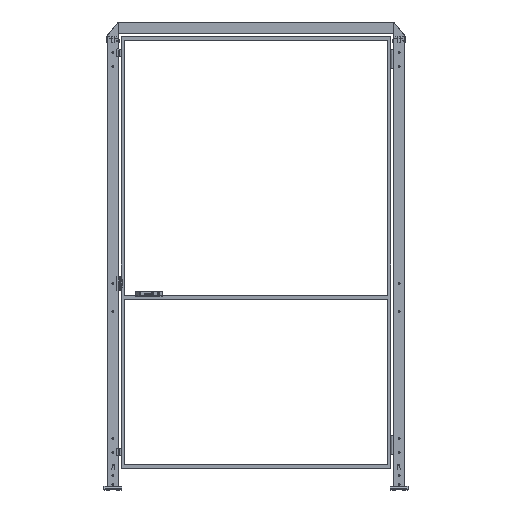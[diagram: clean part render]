
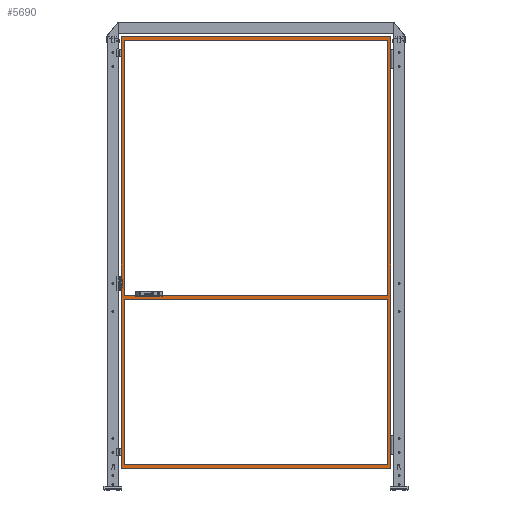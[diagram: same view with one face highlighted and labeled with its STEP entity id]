
A CAD part, top view. The second image highlights one B-rep face of the part: STEP entity #5690.
In plain terms, the highlighted planar face has unit normal (0, 0, 1).
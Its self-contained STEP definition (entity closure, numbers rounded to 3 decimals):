
#5690=ADVANCED_FACE('',(#11648,#11649,#11650),#11651,.F.);
#11648=FACE_BOUND('',#19171,.T.);
#11649=FACE_OUTER_BOUND('',#19172,.T.);
#11650=FACE_BOUND('',#19173,.T.);
#11651=PLANE('',#19174);
#19171=EDGE_LOOP('',(#35965,#35966,#35967,#35968));
#19172=EDGE_LOOP('',(#35969,#35970,#35971,#35972));
#19173=EDGE_LOOP('',(#35973,#35974,#35975,#35976));
#19174=AXIS2_PLACEMENT_3D('',#35977,#35978,#35979);
#35965=ORIENTED_EDGE('',*,*,#42847,.F.);
#35966=ORIENTED_EDGE('',*,*,#42853,.T.);
#35967=ORIENTED_EDGE('',*,*,#42875,.T.);
#35968=ORIENTED_EDGE('',*,*,#42880,.F.);
#35969=ORIENTED_EDGE('',*,*,#42891,.F.);
#35970=ORIENTED_EDGE('',*,*,#42885,.F.);
#35971=ORIENTED_EDGE('',*,*,#42855,.F.);
#35972=ORIENTED_EDGE('',*,*,#42889,.F.);
#35973=ORIENTED_EDGE('',*,*,#42877,.F.);
#35974=ORIENTED_EDGE('',*,*,#42872,.F.);
#35975=ORIENTED_EDGE('',*,*,#42883,.T.);
#35976=ORIENTED_EDGE('',*,*,#42892,.T.);
#35977=CARTESIAN_POINT('',(765.0,130.0,10.0));
#35978=DIRECTION('',(0.,0.0,-1.0));
#35979=DIRECTION('',(-1.0,0.0,0.));
#42847=EDGE_CURVE('',#52941,#52944,#52945,.T.);
#42853=EDGE_CURVE('',#52941,#52952,#52954,.T.);
#42855=EDGE_CURVE('',#52956,#52957,#52958,.T.);
#42872=EDGE_CURVE('',#52984,#52982,#52986,.T.);
#42875=EDGE_CURVE('',#52952,#52988,#52990,.T.);
#42877=EDGE_CURVE('',#52982,#52992,#52993,.T.);
#42880=EDGE_CURVE('',#52944,#52988,#52996,.T.);
#42883=EDGE_CURVE('',#52984,#52998,#53000,.T.);
#42885=EDGE_CURVE('',#52957,#53002,#53003,.T.);
#42889=EDGE_CURVE('',#53006,#52956,#53008,.T.);
#42891=EDGE_CURVE('',#53002,#53006,#53010,.T.);
#42892=EDGE_CURVE('',#52998,#52992,#53011,.T.);
#52941=VERTEX_POINT('',#68243);
#52944=VERTEX_POINT('',#68247);
#52945=LINE('',#68248,#68249);
#52952=VERTEX_POINT('',#68259);
#52954=LINE('',#68262,#68263);
#52956=VERTEX_POINT('',#68265);
#52957=VERTEX_POINT('',#68266);
#52958=LINE('',#68267,#68268);
#52982=VERTEX_POINT('',#68304);
#52984=VERTEX_POINT('',#68307);
#52986=LINE('',#68310,#68311);
#52988=VERTEX_POINT('',#68313);
#52990=LINE('',#68316,#68317);
#52992=VERTEX_POINT('',#68319);
#52993=LINE('',#68320,#68321);
#52996=LINE('',#68325,#68326);
#52998=VERTEX_POINT('',#68328);
#53000=LINE('',#68331,#68332);
#53002=VERTEX_POINT('',#68334);
#53003=LINE('',#68335,#68336);
#53006=VERTEX_POINT('',#68340);
#53008=LINE('',#68343,#68344);
#53010=LINE('',#68346,#68347);
#53011=LINE('',#68348,#68349);
#68243=CARTESIAN_POINT('',(1495.0,2500.0,10.));
#68247=CARTESIAN_POINT('',(35.,2500.0,10.0));
#68248=CARTESIAN_POINT('',(765.0,2500.0,10.0));
#68249=VECTOR('',#75637,1.0);
#68259=CARTESIAN_POINT('',(1495.0,1080.0,10.));
#68262=CARTESIAN_POINT('',(1495.0,1320.0,10.));
#68263=VECTOR('',#75642,1.0);
#68265=CARTESIAN_POINT('',(15.0,120.0,10.0));
#68266=CARTESIAN_POINT('',(15.,2520.0,10.0));
#68267=CARTESIAN_POINT('',(15.0,130.0,10.0));
#68268=VECTOR('',#75643,1.0);
#68304=CARTESIAN_POINT('',(35.,1060.0,10.0));
#68307=CARTESIAN_POINT('',(1495.0,1060.0,10.));
#68310=CARTESIAN_POINT('',(765.0,1060.0,10.0));
#68311=VECTOR('',#75658,1.0);
#68313=CARTESIAN_POINT('',(35.,1080.0,10.0));
#68316=CARTESIAN_POINT('',(765.0,1080.0,10.0));
#68317=VECTOR('',#75660,1.0);
#68319=CARTESIAN_POINT('',(35.0,140.0,10.0));
#68320=CARTESIAN_POINT('',(35.,1320.0,10.0));
#68321=VECTOR('',#75661,1.0);
#68325=CARTESIAN_POINT('',(35.,1320.0,10.0));
#68326=VECTOR('',#75663,1.0);
#68328=CARTESIAN_POINT('',(1495.0,140.0,10.));
#68331=CARTESIAN_POINT('',(1495.0,1320.0,10.));
#68332=VECTOR('',#75665,1.0);
#68334=CARTESIAN_POINT('',(1515.0,2520.0,10.));
#68335=CARTESIAN_POINT('',(25.,2520.0,10.0));
#68336=VECTOR('',#75666,1.0);
#68340=CARTESIAN_POINT('',(1515.0,120.0,10.));
#68343=CARTESIAN_POINT('',(765.0,120.0,10.0));
#68344=VECTOR('',#75669,1.0);
#68346=CARTESIAN_POINT('',(1515.0,1320.0,10.));
#68347=VECTOR('',#75670,1.0);
#68348=CARTESIAN_POINT('',(765.0,140.0,10.0));
#68349=VECTOR('',#75671,1.0);
#75637=DIRECTION('',(-1.0,0.0,0.));
#75642=DIRECTION('',(0.,-1.0,0.));
#75643=DIRECTION('',(0.0,1.0,0.0));
#75658=DIRECTION('',(-1.0,0.0,0.));
#75660=DIRECTION('',(-1.0,0.0,0.));
#75661=DIRECTION('',(0.,-1.0,0.));
#75663=DIRECTION('',(0.,-1.0,0.));
#75665=DIRECTION('',(0.,-1.0,0.));
#75666=DIRECTION('',(1.0,0.,0.));
#75669=DIRECTION('',(-1.0,0.0,0.));
#75670=DIRECTION('',(0.,-1.0,0.));
#75671=DIRECTION('',(-1.0,0.0,0.));
